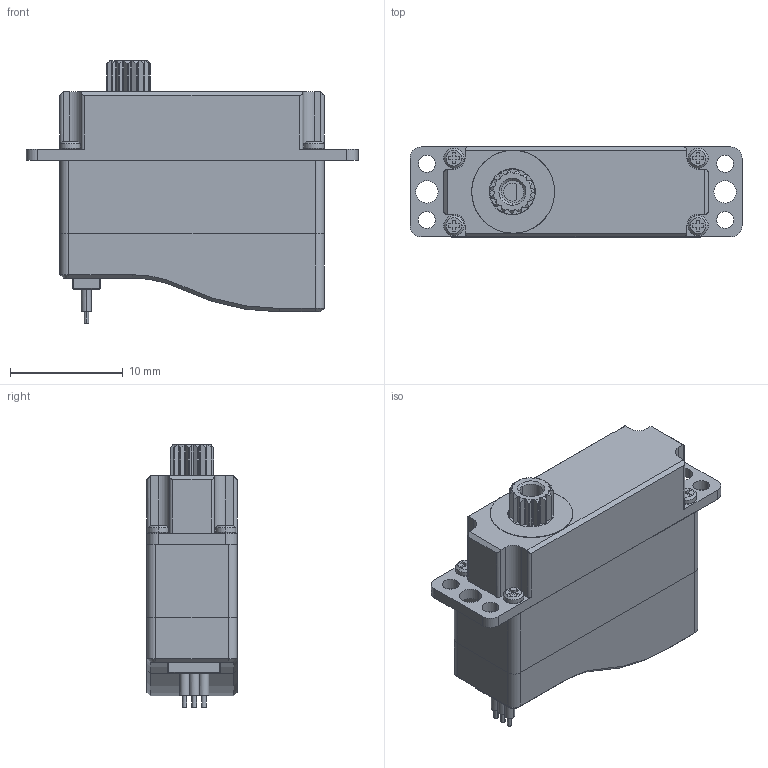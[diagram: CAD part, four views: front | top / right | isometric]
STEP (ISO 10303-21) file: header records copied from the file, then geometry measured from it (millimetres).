
FILE_DESCRIPTION (( 'STEP AP214' ), '1' );
FILE_NAME ('A08 V6.0_DM.STEP', '2021-02-20T02:47:24', ( '微软用户' ), ( '微软中国' ), 'SwSTEP 2.0', 'SolidWorks 2016', '' );
FILE_SCHEMA (( 'AUTOMOTIVE_DESIGN' ));
Length unit declared in the file: millimetre
Products named in the file (2): A08 V6.0_DM
Bounding box: 29.5 x 8 x 23.3 mm (x, y, z)
Surface area: 1941.8 mm2 (no closed solid volume)
Topology: 0 solids, 14 shells, 308 faces, 920 edges, 617 vertices
Faces by surface type: plane 158, cylinder 108, cone 34, torus 8
Entity records: 13933 total; most frequent: CARTESIAN_POINT 2081, DIRECTION 1788, ORIENTED_EDGE 1694, EDGE_CURVE 920, VERTEX_POINT 617, AXIS2_PLACEMENT_3D 604, VECTOR 580, LINE 580
